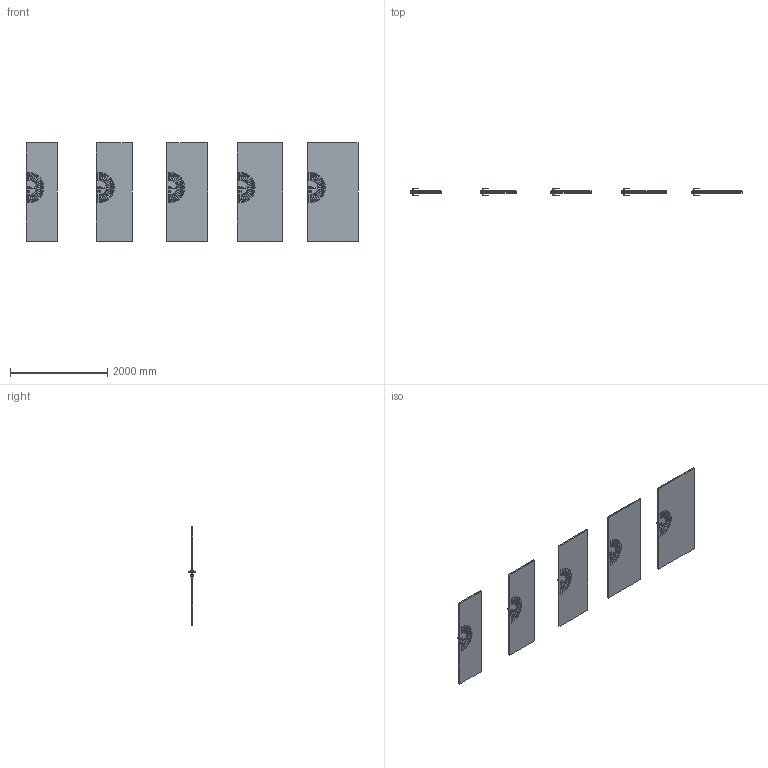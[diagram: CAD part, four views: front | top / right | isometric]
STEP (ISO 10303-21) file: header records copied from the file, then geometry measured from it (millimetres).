
FILE_DESCRIPTION(/* description */ (''),/* implementation_level */ '2;1');
FILE_NAME(/* name */ '049841_A_2-Skrzydło ART DECO model 2_ polska norma _PN__ odwrotna przylga..stp',/* time_stamp */ '2024-09-02T09:20:49+02:00',/* author */ (''),/* organization */ (''),/* preprocessor_version */ 'ST-DEVELOPER v16',/* originating_system */ 'SIEMENS PLM Software NX 11.0',/* authorisation */ '');
FILE_SCHEMA (('AUTOMOTIVE_DESIGN { 1 0 10303 214 3 1 1 1 }'));
Products named in the file (1): bkni1684CEC86eoy
Bounding box: 6839 x 153.13 x 2027 mm (x, y, z)
Volume: 331078986.4 mm3; surface area: 18428531.4 mm2
Topology: 25 solids, 25 shells, 2290 faces, 5720 edges, 3380 vertices
Faces by surface type: plane 790, cylinder 780, torus 280, bspline 160, sphere 140, cone 140
Entity records: 72599 total; most frequent: CARTESIAN_POINT 18271, DIRECTION 11822, ORIENTED_EDGE 11160, EDGE_CURVE 5580, AXIS2_PLACEMENT_3D 4411, VERTEX_POINT 3380, LINE 3000, VECTOR 3000
